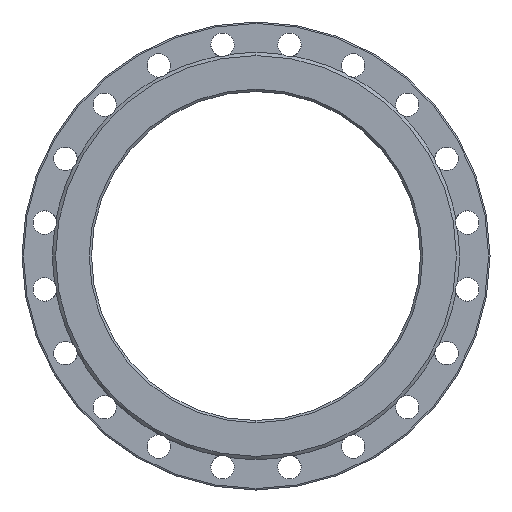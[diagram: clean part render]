
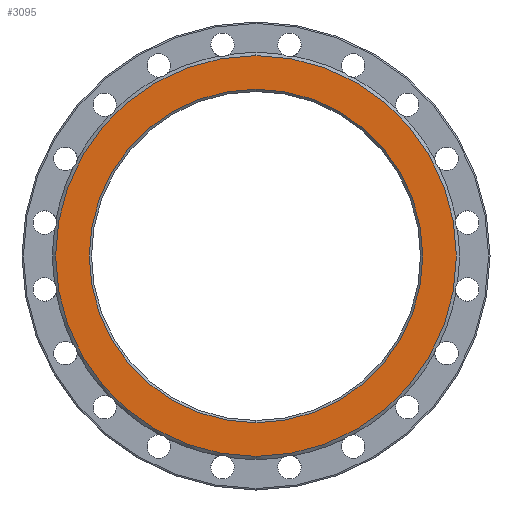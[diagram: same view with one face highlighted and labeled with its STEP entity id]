
A CAD part, left-side view. The second image highlights one B-rep face of the part: STEP entity #3095.
In plain terms, the highlighted planar face has unit normal (-1, 0, 0).
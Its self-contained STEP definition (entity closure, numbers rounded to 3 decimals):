
#102 = DIRECTION ( 'NONE',  ( 0., 0., -1. ) ) ;
#104 = ORIENTED_EDGE ( 'NONE', *, *, #7377, .T. ) ;
#275 = CIRCLE ( 'NONE', #5808, 274. ) ;
#365 = DIRECTION ( 'NONE',  ( 1., 0., 0. ) ) ;
#438 = CARTESIAN_POINT ( 'NONE',  ( -250., 0., 274. ) ) ;
#489 = FACE_BOUND ( 'NONE', #6851, .T. ) ;
#565 = FACE_OUTER_BOUND ( 'NONE', #2473, .T. ) ;
#719 = DIRECTION ( 'NONE',  ( 0., 0., 1. ) ) ;
#996 = DIRECTION ( 'NONE',  ( -1., 0., 0. ) ) ;
#1351 = ORIENTED_EDGE ( 'NONE', *, *, #7622, .T. ) ;
#1877 = EDGE_CURVE ( 'Defeatured_0_4+Defeatured_0_0+Defeatured_0_0+Defeatured_0_0', #3861, #3623, #275, .T. ) ;
#2064 = CIRCLE ( 'NONE', #6473, 274. ) ;
#2473 = EDGE_LOOP ( 'NONE', ( #7139, #5948 ) ) ;
#2854 = DIRECTION ( 'NONE',  ( 1., 0., 0. ) ) ;
#3050 = CARTESIAN_POINT ( 'NONE',  ( -250., 0., 0. ) ) ;
#3095 = ADVANCED_FACE ( 'Defeatured_0_4', ( #489, #565 ), #7174, .F. ) ;
#3401 = CARTESIAN_POINT ( 'NONE',  ( -250., 0., 0. ) ) ;
#3623 = VERTEX_POINT ( 'NONE', #438 ) ;
#3718 = DIRECTION ( 'NONE',  ( -1., 0., 0. ) ) ;
#3861 = VERTEX_POINT ( 'NONE', #7397 ) ;
#4186 = CARTESIAN_POINT ( 'NONE',  ( -250., 0., 0. ) ) ;
#4305 = DIRECTION ( 'NONE',  ( 1., 0., 0. ) ) ;
#4590 = CIRCLE ( 'NONE', #5219, 228. ) ;
#4661 = DIRECTION ( 'NONE',  ( 0., 0., -1. ) ) ;
#4744 = CARTESIAN_POINT ( 'NONE',  ( -250., 0., -228. ) ) ;
#5099 = AXIS2_PLACEMENT_3D ( 'NONE', #3401, #365, #5806 ) ;
#5219 = AXIS2_PLACEMENT_3D ( 'NONE', #3050, #4305, #102 ) ;
#5806 = DIRECTION ( 'NONE',  ( 0., 0., -1. ) ) ;
#5808 = AXIS2_PLACEMENT_3D ( 'NONE', #7652, #996, #5848 ) ;
#5848 = DIRECTION ( 'NONE',  ( 0., 0., 1. ) ) ;
#5948 = ORIENTED_EDGE ( 'NONE', *, *, #7429, .T. ) ;
#6170 = VERTEX_POINT ( 'NONE', #6187 ) ;
#6187 = CARTESIAN_POINT ( 'NONE',  ( -250., 0., 228. ) ) ;
#6244 = AXIS2_PLACEMENT_3D ( 'NONE', #6510, #2854, #4661 ) ;
#6473 = AXIS2_PLACEMENT_3D ( 'NONE', #4186, #3718, #719 ) ;
#6510 = CARTESIAN_POINT ( 'NONE',  ( -250., 225., 0. ) ) ;
#6851 = EDGE_LOOP ( 'NONE', ( #104, #1351 ) ) ;
#6859 = VERTEX_POINT ( 'NONE', #4744 ) ;
#6980 = CIRCLE ( 'NONE', #5099, 228. ) ;
#7139 = ORIENTED_EDGE ( 'NONE', *, *, #1877, .T. ) ;
#7174 = PLANE ( 'NONE',  #6244 ) ;
#7377 = EDGE_CURVE ( 'Defeatured_0_4+Defeatured_0_63+Defeatured_0_63+Defeatured_0_63', #6170, #6859, #4590, .T. ) ;
#7397 = CARTESIAN_POINT ( 'NONE',  ( -250., 0., -274. ) ) ;
#7429 = EDGE_CURVE ( 'Defeatured_0_4+Defeatured_0_0+Defeatured_0_0+Defeatured_0_0', #3623, #3861, #2064, .T. ) ;
#7622 = EDGE_CURVE ( 'Defeatured_0_4+Defeatured_0_63+Defeatured_0_63+Defeatured_0_63', #6859, #6170, #6980, .T. ) ;
#7652 = CARTESIAN_POINT ( 'NONE',  ( -250., 0., 0. ) ) ;
